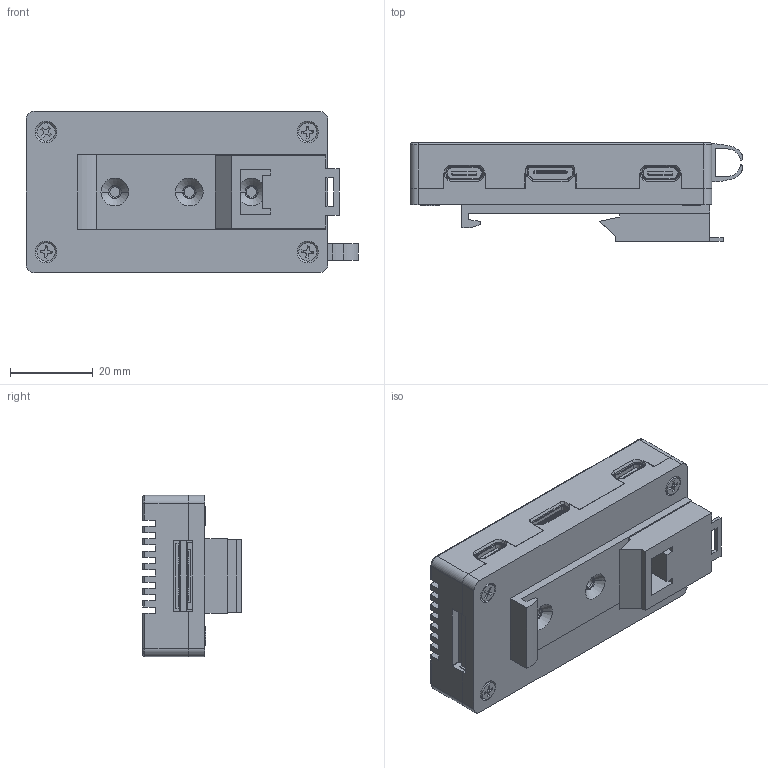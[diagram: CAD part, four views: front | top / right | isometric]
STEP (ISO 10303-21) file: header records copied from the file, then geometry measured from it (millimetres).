
FILE_DESCRIPTION (( 'STEP AP214' ), '1' );
FILE_NAME ('LubanCat zero W 蚾饜极.STEP', '2024-09-14T02:39:28', ( '' ), ( '' ), 'SwSTEP 2.0', 'SolidWorks 2021', '' );
FILE_SCHEMA (( 'AUTOMOTIVE_DESIGN' ));
Length unit declared in the file: millimetre
Products named in the file (7): LubanCat zero W 菁裔; LubanCat zero W 蚾饜极; cross recessed countersunk head screws gb1_GB_CROSS_SCREWS_TYPE4 M2.5X8-6.5  H type-N; PCB蚾饜极1; 35mmPC苤倰縐諶18x60; 毞盄釱; 散热盖（修改干涉位置20220801）
Assembly tree (9 placements, depth 2):
  LubanCat zero W 蚾饜极
    PCB蚾饜极1
    散热盖（修改干涉位置20220801）
    cross recessed countersunk head screws gb1_GB_CROSS_SCREWS_TYPE4 M2.5X8-6.5  H type-N  x4
    毞盄釱
    LubanCat zero W 菁裔
    35mmPC苤倰縐諶18x60
Bounding box: 80.3 x 23.8 x 39 mm (x, y, z)
Volume: 30553.3 mm3; surface area: 35780.7 mm2
Topology: 461 solids, 461 shells, 5601 faces, 16181 edges, 10602 vertices
Faces by surface type: plane 3661, sphere 880, cylinder 718, bspline 259, cone 71, torus 12
Entity records: 231354 total; most frequent: CARTESIAN_POINT 36386, ORIENTED_EDGE 27530, DIRECTION 25949, EDGE_CURVE 13765, LINE 10797, VECTOR 10797, VERTEX_POINT 9162, AXIS2_PLACEMENT_3D 7576
